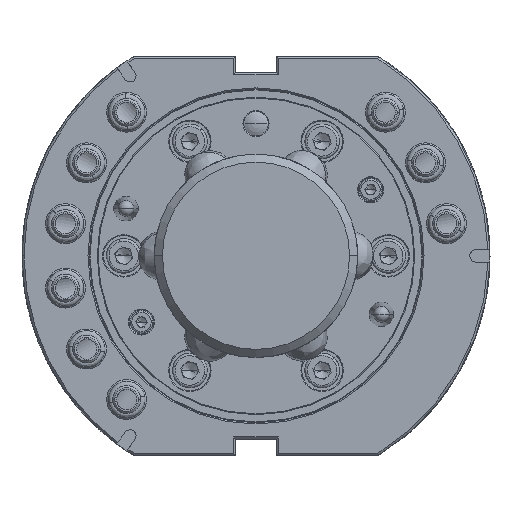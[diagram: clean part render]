
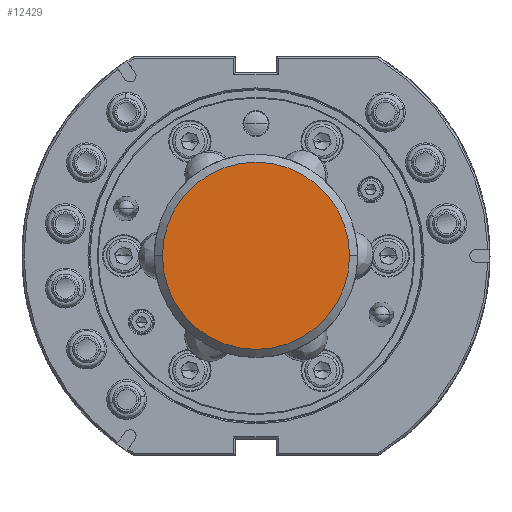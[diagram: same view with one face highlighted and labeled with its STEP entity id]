
A CAD part, top view. The second image highlights one B-rep face of the part: STEP entity #12429.
In plain terms, the highlighted planar face has unit normal (0, 0, -1).
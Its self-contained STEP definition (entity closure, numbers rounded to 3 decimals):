
#1611 = AXIS2_PLACEMENT_3D ( 'NONE', #32450, #32155, #31952 ) ;
#1934 = FACE_OUTER_BOUND ( 'NONE', #4301, .T. ) ;
#3274 = AXIS2_PLACEMENT_3D ( 'NONE', #7644, #7552, #7466 ) ;
#3570 = CIRCLE ( 'NONE', #3274, 23. ) ;
#4301 = EDGE_LOOP ( 'NONE', ( #9232, #5837 ) ) ;
#5837 = ORIENTED_EDGE ( 'NONE', *, *, #34088, .T. ) ;
#6513 = VERTEX_POINT ( 'NONE', #35793 ) ;
#6810 = VERTEX_POINT ( 'NONE', #26429 ) ;
#7466 = DIRECTION ( 'NONE',  ( -1., 0., 0. ) ) ;
#7552 = DIRECTION ( 'NONE',  ( 0., 0., -1. ) ) ;
#7644 = CARTESIAN_POINT ( 'NONE',  ( 0., 0., 0. ) ) ;
#9232 = ORIENTED_EDGE ( 'NONE', *, *, #24200, .T. ) ;
#10993 = CARTESIAN_POINT ( 'NONE',  ( 0., 0., 0. ) ) ;
#12429 = ADVANCED_FACE ( 'NONE', ( #1934 ), #32573, .T. ) ;
#14323 = DIRECTION ( 'NONE',  ( -1., 0., 0. ) ) ;
#24200 = EDGE_CURVE ( 'NONE', #6810, #6513, #3570, .T. ) ;
#26429 = CARTESIAN_POINT ( 'NONE',  ( -23., 0., 0. ) ) ;
#29242 = AXIS2_PLACEMENT_3D ( 'NONE', #10993, #34203, #14323 ) ;
#31952 = DIRECTION ( 'NONE',  ( -1., 0., 0. ) ) ;
#32155 = DIRECTION ( 'NONE',  ( 0., 0., -1. ) ) ;
#32450 = CARTESIAN_POINT ( 'NONE',  ( 0., 0., 0. ) ) ;
#32573 = PLANE ( 'NONE',  #1611 ) ;
#34088 = EDGE_CURVE ( 'NONE', #6513, #6810, #37090, .T. ) ;
#34203 = DIRECTION ( 'NONE',  ( 0., 0., -1. ) ) ;
#35793 = CARTESIAN_POINT ( 'NONE',  ( 23., 0., 0. ) ) ;
#37090 = CIRCLE ( 'NONE', #29242, 23. ) ;
